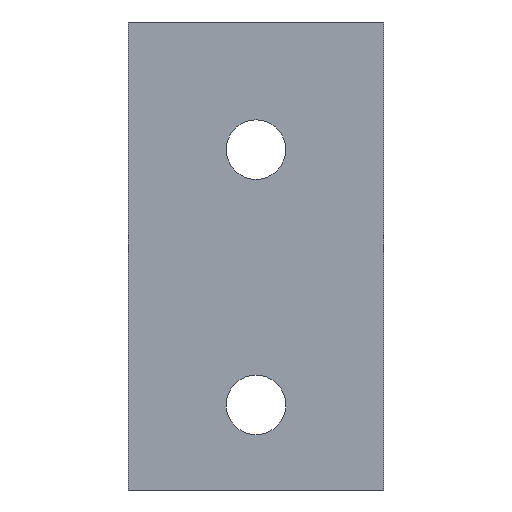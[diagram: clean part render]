
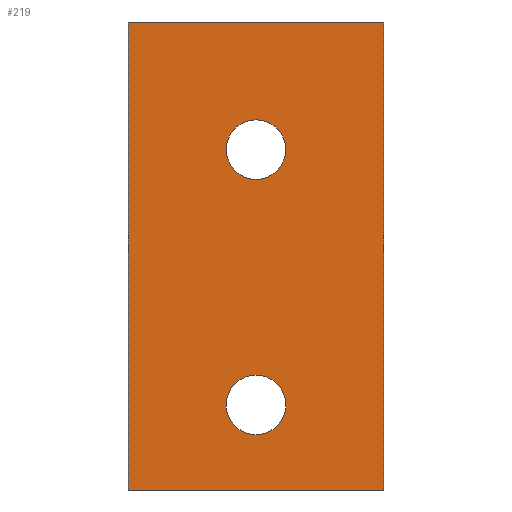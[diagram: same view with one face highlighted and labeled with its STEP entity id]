
A CAD part, front view. The second image highlights one B-rep face of the part: STEP entity #219.
In plain terms, the highlighted planar face has unit normal (0, -1, 0).
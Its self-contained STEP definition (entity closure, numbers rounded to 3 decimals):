
#13 = CARTESIAN_POINT ( 'NONE',  ( 0., -15., 51.5 ) ) ;
#40 = CARTESIAN_POINT ( 'NONE',  ( -15., -15., 45. ) ) ;
#42 = LINE ( 'NONE', #181, #211 ) ;
#45 = DIRECTION ( 'NONE',  ( 1., 0., 0. ) ) ;
#50 = CARTESIAN_POINT ( 'NONE',  ( 0., -15., 58.5 ) ) ;
#59 = DIRECTION ( 'NONE',  ( 0., 1., 0. ) ) ;
#67 = ORIENTED_EDGE ( 'NONE', *, *, #304, .T. ) ;
#74 = DIRECTION ( 'NONE',  ( 1., 0., 0. ) ) ;
#76 = CARTESIAN_POINT ( 'NONE',  ( -15., -15., 100. ) ) ;
#81 = ORIENTED_EDGE ( 'NONE', *, *, #459, .T. ) ;
#86 = DIRECTION ( 'NONE',  ( 0., 0., 1. ) ) ;
#90 = VECTOR ( 'NONE', #74, 1000. ) ;
#91 = EDGE_LOOP ( 'NONE', ( #179, #323 ) ) ;
#101 = EDGE_LOOP ( 'NONE', ( #67, #521 ) ) ;
#107 = DIRECTION ( 'NONE',  ( 0., 0., 1. ) ) ;
#113 = AXIS2_PLACEMENT_3D ( 'NONE', #485, #59, #349 ) ;
#120 = LINE ( 'NONE', #76, #90 ) ;
#126 = PLANE ( 'NONE',  #491 ) ;
#127 = EDGE_CURVE ( 'NONE', #505, #355, #249, .T. ) ;
#134 = VERTEX_POINT ( 'NONE', #305 ) ;
#144 = CARTESIAN_POINT ( 'NONE',  ( 15., -15., 45. ) ) ;
#149 = VERTEX_POINT ( 'NONE', #164 ) ;
#157 = CARTESIAN_POINT ( 'NONE',  ( -15., -15., 100. ) ) ;
#160 = CIRCLE ( 'NONE', #584, 3.5 ) ;
#164 = CARTESIAN_POINT ( 'NONE',  ( -15., -15., 45. ) ) ;
#179 = ORIENTED_EDGE ( 'NONE', *, *, #567, .T. ) ;
#181 = CARTESIAN_POINT ( 'NONE',  ( -15., -15., 45. ) ) ;
#182 = VERTEX_POINT ( 'NONE', #157 ) ;
#187 = AXIS2_PLACEMENT_3D ( 'NONE', #528, #489, #107 ) ;
#211 = VECTOR ( 'NONE', #45, 1000. ) ;
#212 = EDGE_CURVE ( 'NONE', #149, #182, #456, .T. ) ;
#217 = VERTEX_POINT ( 'NONE', #221 ) ;
#218 = AXIS2_PLACEMENT_3D ( 'NONE', #543, #403, #582 ) ;
#219 = ADVANCED_FACE ( 'NONE', ( #507, #362, #312 ), #126, .T. ) ;
#221 = CARTESIAN_POINT ( 'NONE',  ( 0., -15., 81.5 ) ) ;
#227 = ORIENTED_EDGE ( 'NONE', *, *, #212, .F. ) ;
#249 = CIRCLE ( 'NONE', #187, 3.5 ) ;
#268 = CARTESIAN_POINT ( 'NONE',  ( 0., -15., 88.5 ) ) ;
#270 = CARTESIAN_POINT ( 'NONE',  ( -15., -15., 45. ) ) ;
#280 = CARTESIAN_POINT ( 'NONE',  ( 15., -15., 100. ) ) ;
#285 = VERTEX_POINT ( 'NONE', #268 ) ;
#288 = DIRECTION ( 'NONE',  ( 0., 0., 1. ) ) ;
#304 = EDGE_CURVE ( 'NONE', #355, #505, #354, .T. ) ;
#305 = CARTESIAN_POINT ( 'NONE',  ( 15., -15., 45. ) ) ;
#308 = EDGE_LOOP ( 'NONE', ( #517, #227, #81, #470 ) ) ;
#312 = FACE_OUTER_BOUND ( 'NONE', #308, .T. ) ;
#323 = ORIENTED_EDGE ( 'NONE', *, *, #386, .T. ) ;
#324 = DIRECTION ( 'NONE',  ( 0., 1., 0. ) ) ;
#327 = CARTESIAN_POINT ( 'NONE',  ( 0., -15., 85. ) ) ;
#330 = LINE ( 'NONE', #144, #424 ) ;
#335 = EDGE_CURVE ( 'NONE', #182, #446, #120, .T. ) ;
#349 = DIRECTION ( 'NONE',  ( 0., 0., 1. ) ) ;
#354 = CIRCLE ( 'NONE', #218, 3.5 ) ;
#355 = VERTEX_POINT ( 'NONE', #50 ) ;
#362 = FACE_BOUND ( 'NONE', #91, .T. ) ;
#372 = EDGE_CURVE ( 'NONE', #134, #446, #330, .T. ) ;
#377 = CIRCLE ( 'NONE', #113, 3.5 ) ;
#386 = EDGE_CURVE ( 'NONE', #217, #285, #160, .T. ) ;
#403 = DIRECTION ( 'NONE',  ( 0., 1., 0. ) ) ;
#407 = DIRECTION ( 'NONE',  ( 0., 0., -1. ) ) ;
#424 = VECTOR ( 'NONE', #288, 1000. ) ;
#446 = VERTEX_POINT ( 'NONE', #280 ) ;
#456 = LINE ( 'NONE', #270, #530 ) ;
#459 = EDGE_CURVE ( 'NONE', #149, #134, #42, .T. ) ;
#470 = ORIENTED_EDGE ( 'NONE', *, *, #372, .T. ) ;
#485 = CARTESIAN_POINT ( 'NONE',  ( 0., -15., 85. ) ) ;
#489 = DIRECTION ( 'NONE',  ( 0., 1., 0. ) ) ;
#491 = AXIS2_PLACEMENT_3D ( 'NONE', #40, #504, #407 ) ;
#504 = DIRECTION ( 'NONE',  ( 0., -1., 0. ) ) ;
#505 = VERTEX_POINT ( 'NONE', #13 ) ;
#507 = FACE_BOUND ( 'NONE', #101, .T. ) ;
#517 = ORIENTED_EDGE ( 'NONE', *, *, #335, .F. ) ;
#521 = ORIENTED_EDGE ( 'NONE', *, *, #127, .T. ) ;
#528 = CARTESIAN_POINT ( 'NONE',  ( 0., -15., 55. ) ) ;
#530 = VECTOR ( 'NONE', #86, 1000. ) ;
#543 = CARTESIAN_POINT ( 'NONE',  ( 0., -15., 55. ) ) ;
#563 = DIRECTION ( 'NONE',  ( 0., 0., 1. ) ) ;
#567 = EDGE_CURVE ( 'NONE', #285, #217, #377, .T. ) ;
#582 = DIRECTION ( 'NONE',  ( 0., 0., 1. ) ) ;
#584 = AXIS2_PLACEMENT_3D ( 'NONE', #327, #324, #563 ) ;
